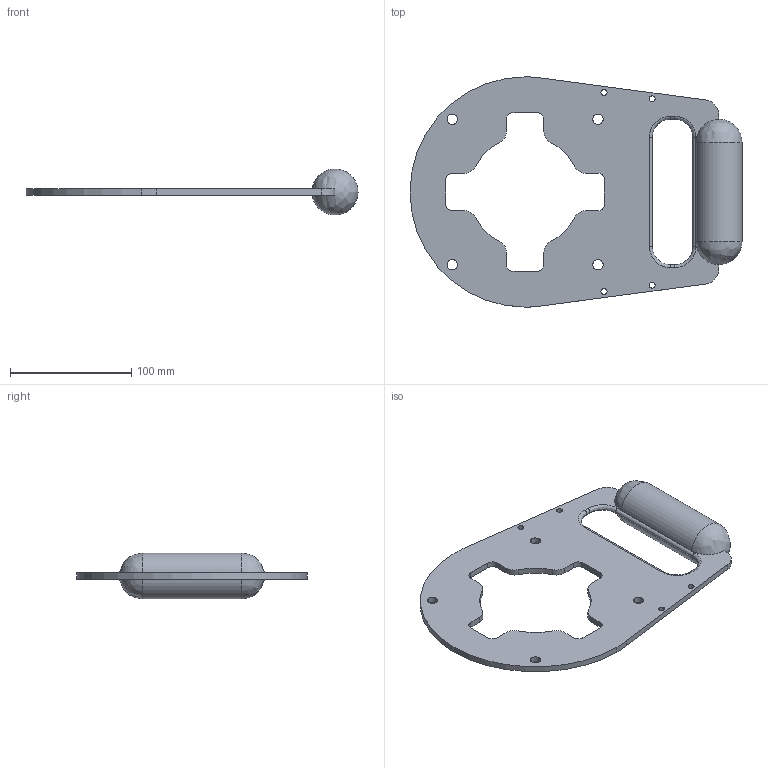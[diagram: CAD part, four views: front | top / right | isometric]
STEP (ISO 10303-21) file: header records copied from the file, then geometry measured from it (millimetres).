
FILE_DESCRIPTION (( 'STEP AP203' ), '1' );
FILE_NAME ('ssr-mh4912.STEP', '2022-03-15T08:19:12', ( '' ), ( '' ), 'SwSTEP 2.0', 'SolidWorks 2020', '' );
FILE_SCHEMA (( 'CONFIG_CONTROL_DESIGN' ));
Length unit declared in the file: millimetre
Products named in the file (1): ssr-mh4912
Bounding box: 274 x 190 x 37.92 mm (x, y, z)
Volume: 250673.4 mm3; surface area: 72562.4 mm2
Topology: 1 solids, 1 shells, 72 faces, 212 edges, 139 vertices
Faces by surface type: cylinder 47, plane 18, bspline 7
Entity records: 2899 total; most frequent: CARTESIAN_POINT 836, DIRECTION 427, ORIENTED_EDGE 418, EDGE_CURVE 209, AXIS2_PLACEMENT_3D 164, VERTEX_POINT 139, LINE 99, VECTOR 99
